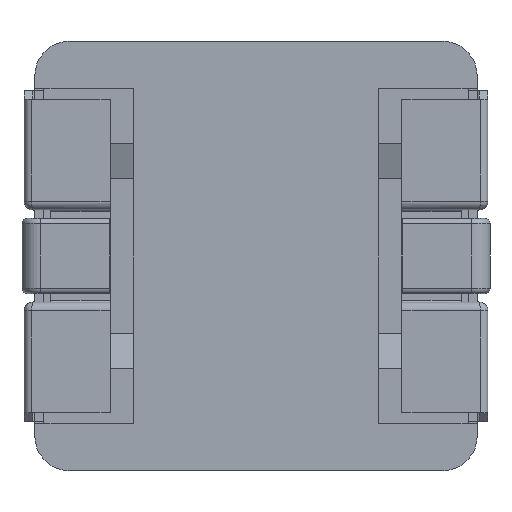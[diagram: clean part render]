
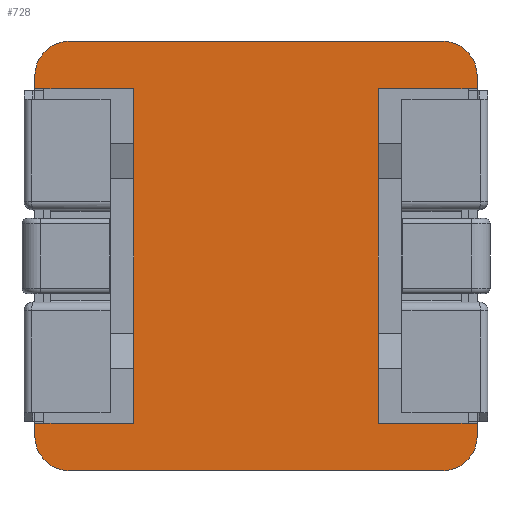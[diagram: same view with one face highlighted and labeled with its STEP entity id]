
A CAD part, front view. The second image highlights one B-rep face of the part: STEP entity #728.
In plain terms, the highlighted planar face has unit normal (0, -1, 0).
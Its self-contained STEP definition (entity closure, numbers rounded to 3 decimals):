
#18 = DIRECTION ( 'NONE',  ( 0., 0., -1. ) ) ;
#144 = DIRECTION ( 'NONE',  ( 0., 0., 1. ) ) ;
#285 = DIRECTION ( 'NONE',  ( 1., 0., 0. ) ) ;
#455 = LINE ( 'NONE', #2490, #7962 ) ;
#457 = VECTOR ( 'NONE', #6600, 1000. ) ;
#571 = VECTOR ( 'NONE', #1839, 1000. ) ;
#603 = DIRECTION ( 'NONE',  ( 0., -1., 0. ) ) ;
#635 = VECTOR ( 'NONE', #4025, 1000. ) ;
#699 = VERTEX_POINT ( 'NONE', #4810 ) ;
#728 = ADVANCED_FACE ( 'NONE', ( #6644 ), #3290, .T. ) ;
#773 = CIRCLE ( 'NONE', #9352, 0.8 ) ;
#802 = LINE ( 'NONE', #7799, #571 ) ;
#870 = AXIS2_PLACEMENT_3D ( 'NONE', #5113, #603, #5873 ) ;
#963 = VERTEX_POINT ( 'NONE', #2529 ) ;
#994 = ORIENTED_EDGE ( 'NONE', *, *, #4647, .F. ) ;
#1158 = VECTOR ( 'NONE', #9026, 1000. ) ;
#1487 = LINE ( 'NONE', #7546, #5060 ) ;
#1512 = EDGE_CURVE ( 'NONE', #7294, #2686, #6669, .T. ) ;
#1530 = EDGE_CURVE ( 'NONE', #9571, #4363, #2418, .T. ) ;
#1735 = LINE ( 'NONE', #6891, #9271 ) ;
#1774 = ORIENTED_EDGE ( 'NONE', *, *, #2189, .T. ) ;
#1812 = LINE ( 'NONE', #6059, #5602 ) ;
#1839 = DIRECTION ( 'NONE',  ( 0., 0., -1. ) ) ;
#1846 = CARTESIAN_POINT ( 'NONE',  ( 5.15, -3.545, 4.2 ) ) ;
#1848 = CARTESIAN_POINT ( 'NONE',  ( -5.15, -3.545, 3.9 ) ) ;
#1966 = CIRCLE ( 'NONE', #6836, 0.8 ) ;
#1989 = EDGE_CURVE ( 'NONE', #9447, #963, #4941, .T. ) ;
#2064 = ORIENTED_EDGE ( 'NONE', *, *, #3462, .T. ) ;
#2189 = EDGE_CURVE ( 'NONE', #2468, #3045, #773, .T. ) ;
#2240 = DIRECTION ( 'NONE',  ( 0., -1., 0. ) ) ;
#2241 = EDGE_CURVE ( 'NONE', #699, #4363, #1812, .T. ) ;
#2347 = CARTESIAN_POINT ( 'NONE',  ( -5.15, -3.545, -3.9 ) ) ;
#2394 = ORIENTED_EDGE ( 'NONE', *, *, #9655, .F. ) ;
#2418 = LINE ( 'NONE', #8859, #457 ) ;
#2468 = VERTEX_POINT ( 'NONE', #4869 ) ;
#2486 = CARTESIAN_POINT ( 'NONE',  ( 5.15, -3.545, -4.2 ) ) ;
#2490 = CARTESIAN_POINT ( 'NONE',  ( -5.15, -3.545, 5. ) ) ;
#2529 = CARTESIAN_POINT ( 'NONE',  ( -5.15, -3.545, 4.2 ) ) ;
#2597 = DIRECTION ( 'NONE',  ( 0., 0., 1. ) ) ;
#2622 = LINE ( 'NONE', #7004, #635 ) ;
#2686 = VERTEX_POINT ( 'NONE', #2844 ) ;
#2743 = VECTOR ( 'NONE', #2597, 1000. ) ;
#2844 = CARTESIAN_POINT ( 'NONE',  ( 4.35, -3.545, 5. ) ) ;
#3045 = VERTEX_POINT ( 'NONE', #6308 ) ;
#3072 = DIRECTION ( 'NONE',  ( 1., 0., 0. ) ) ;
#3177 = VERTEX_POINT ( 'NONE', #9348 ) ;
#3187 = EDGE_CURVE ( 'NONE', #7294, #699, #802, .T. ) ;
#3290 = PLANE ( 'NONE',  #3381 ) ;
#3381 = AXIS2_PLACEMENT_3D ( 'NONE', #9275, #5485, #7764 ) ;
#3462 = EDGE_CURVE ( 'NONE', #3177, #963, #6773, .T. ) ;
#3535 = EDGE_CURVE ( 'NONE', #7165, #7916, #1966, .T. ) ;
#3553 = CARTESIAN_POINT ( 'NONE',  ( 5.15, -3.545, 5. ) ) ;
#3583 = EDGE_CURVE ( 'NONE', #7165, #3045, #9782, .T. ) ;
#3662 = EDGE_CURVE ( 'NONE', #9571, #8614, #1487, .T. ) ;
#3753 = VECTOR ( 'NONE', #5297, 1000. ) ;
#3761 = DIRECTION ( 'NONE',  ( -1., 0., 0. ) ) ;
#4025 = DIRECTION ( 'NONE',  ( -1., 0., 0. ) ) ;
#4065 = ORIENTED_EDGE ( 'NONE', *, *, #4351, .T. ) ;
#4108 = CARTESIAN_POINT ( 'NONE',  ( -2.85, -3.545, -3.9 ) ) ;
#4148 = CARTESIAN_POINT ( 'NONE',  ( -5.15, -3.545, 5. ) ) ;
#4318 = DIRECTION ( 'NONE',  ( 0., 0., -1. ) ) ;
#4351 = EDGE_CURVE ( 'NONE', #9447, #8010, #7623, .T. ) ;
#4363 = VERTEX_POINT ( 'NONE', #8558 ) ;
#4450 = ORIENTED_EDGE ( 'NONE', *, *, #1530, .T. ) ;
#4478 = DIRECTION ( 'NONE',  ( 0., -1., 0. ) ) ;
#4512 = DIRECTION ( 'NONE',  ( 0., -1., 0. ) ) ;
#4602 = CARTESIAN_POINT ( 'NONE',  ( -2.85, -3.545, 3.9 ) ) ;
#4647 = EDGE_CURVE ( 'NONE', #8614, #7916, #5182, .T. ) ;
#4810 = CARTESIAN_POINT ( 'NONE',  ( 5.15, -3.545, 3.9 ) ) ;
#4833 = EDGE_CURVE ( 'NONE', #5932, #8010, #1735, .T. ) ;
#4869 = CARTESIAN_POINT ( 'NONE',  ( -5.15, -3.545, -4.2 ) ) ;
#4941 = LINE ( 'NONE', #6751, #1158 ) ;
#5015 = LINE ( 'NONE', #4148, #2743 ) ;
#5060 = VECTOR ( 'NONE', #3072, 1000. ) ;
#5113 = CARTESIAN_POINT ( 'NONE',  ( 4.35, -3.545, 4.2 ) ) ;
#5179 = ORIENTED_EDGE ( 'NONE', *, *, #3662, .F. ) ;
#5182 = LINE ( 'NONE', #3553, #6925 ) ;
#5297 = DIRECTION ( 'NONE',  ( -1., 0., 0. ) ) ;
#5429 = ORIENTED_EDGE ( 'NONE', *, *, #3535, .T. ) ;
#5485 = DIRECTION ( 'NONE',  ( 0., -1., 0. ) ) ;
#5518 = CARTESIAN_POINT ( 'NONE',  ( 2.85, -3.545, -3.9 ) ) ;
#5566 = ORIENTED_EDGE ( 'NONE', *, *, #4833, .F. ) ;
#5602 = VECTOR ( 'NONE', #3761, 1000. ) ;
#5796 = EDGE_LOOP ( 'NONE', ( #8493, #2064, #9237, #4065, #5566, #9061, #2394, #1774, #7301, #5429, #994, #5179, #4450, #6250, #6313, #7708 ) ) ;
#5828 = EDGE_CURVE ( 'NONE', #3177, #2686, #455, .T. ) ;
#5873 = DIRECTION ( 'NONE',  ( 0., 0., -1. ) ) ;
#5932 = VERTEX_POINT ( 'NONE', #4108 ) ;
#6059 = CARTESIAN_POINT ( 'NONE',  ( 5.15, -3.545, 3.9 ) ) ;
#6250 = ORIENTED_EDGE ( 'NONE', *, *, #2241, .F. ) ;
#6308 = CARTESIAN_POINT ( 'NONE',  ( -4.35, -3.545, -5. ) ) ;
#6313 = ORIENTED_EDGE ( 'NONE', *, *, #3187, .F. ) ;
#6600 = DIRECTION ( 'NONE',  ( 0., 0., 1. ) ) ;
#6644 = FACE_OUTER_BOUND ( 'NONE', #5796, .T. ) ;
#6669 = CIRCLE ( 'NONE', #870, 0.8 ) ;
#6751 = CARTESIAN_POINT ( 'NONE',  ( -5.15, -3.545, 5. ) ) ;
#6770 = CARTESIAN_POINT ( 'NONE',  ( 4.35, -3.545, -4.2 ) ) ;
#6773 = CIRCLE ( 'NONE', #6939, 0.8 ) ;
#6836 = AXIS2_PLACEMENT_3D ( 'NONE', #6770, #2240, #7515 ) ;
#6891 = CARTESIAN_POINT ( 'NONE',  ( -2.85, -3.545, -3.9 ) ) ;
#6925 = VECTOR ( 'NONE', #4318, 1000. ) ;
#6939 = AXIS2_PLACEMENT_3D ( 'NONE', #8974, #4478, #9769 ) ;
#7004 = CARTESIAN_POINT ( 'NONE',  ( -4.95, -3.545, -3.9 ) ) ;
#7110 = VERTEX_POINT ( 'NONE', #2347 ) ;
#7165 = VERTEX_POINT ( 'NONE', #8487 ) ;
#7187 = EDGE_CURVE ( 'NONE', #5932, #7110, #2622, .T. ) ;
#7294 = VERTEX_POINT ( 'NONE', #1846 ) ;
#7301 = ORIENTED_EDGE ( 'NONE', *, *, #3583, .F. ) ;
#7376 = VECTOR ( 'NONE', #7794, 1000. ) ;
#7515 = DIRECTION ( 'NONE',  ( 0., 0., -1. ) ) ;
#7546 = CARTESIAN_POINT ( 'NONE',  ( 4.95, -3.545, -3.9 ) ) ;
#7623 = LINE ( 'NONE', #1848, #7376 ) ;
#7708 = ORIENTED_EDGE ( 'NONE', *, *, #1512, .T. ) ;
#7764 = DIRECTION ( 'NONE',  ( 0., 0., -1. ) ) ;
#7794 = DIRECTION ( 'NONE',  ( 1., 0., 0. ) ) ;
#7799 = CARTESIAN_POINT ( 'NONE',  ( 5.15, -3.545, 5. ) ) ;
#7916 = VERTEX_POINT ( 'NONE', #2486 ) ;
#7962 = VECTOR ( 'NONE', #285, 1000. ) ;
#8010 = VERTEX_POINT ( 'NONE', #4602 ) ;
#8162 = CARTESIAN_POINT ( 'NONE',  ( 5.15, -3.545, -3.9 ) ) ;
#8254 = CARTESIAN_POINT ( 'NONE',  ( -5.15, -3.545, 3.9 ) ) ;
#8487 = CARTESIAN_POINT ( 'NONE',  ( 4.35, -3.545, -5. ) ) ;
#8493 = ORIENTED_EDGE ( 'NONE', *, *, #5828, .F. ) ;
#8558 = CARTESIAN_POINT ( 'NONE',  ( 2.85, -3.545, 3.9 ) ) ;
#8614 = VERTEX_POINT ( 'NONE', #8162 ) ;
#8859 = CARTESIAN_POINT ( 'NONE',  ( 2.85, -3.545, -3.9 ) ) ;
#8974 = CARTESIAN_POINT ( 'NONE',  ( -4.35, -3.545, 4.2 ) ) ;
#9015 = CARTESIAN_POINT ( 'NONE',  ( -4.35, -3.545, -4.2 ) ) ;
#9026 = DIRECTION ( 'NONE',  ( 0., 0., 1. ) ) ;
#9042 = CARTESIAN_POINT ( 'NONE',  ( -5.15, -3.545, -5. ) ) ;
#9061 = ORIENTED_EDGE ( 'NONE', *, *, #7187, .T. ) ;
#9237 = ORIENTED_EDGE ( 'NONE', *, *, #1989, .F. ) ;
#9271 = VECTOR ( 'NONE', #144, 1000. ) ;
#9275 = CARTESIAN_POINT ( 'NONE',  ( 0., -3.545, 0. ) ) ;
#9348 = CARTESIAN_POINT ( 'NONE',  ( -4.35, -3.545, 5. ) ) ;
#9352 = AXIS2_PLACEMENT_3D ( 'NONE', #9015, #4512, #18 ) ;
#9447 = VERTEX_POINT ( 'NONE', #8254 ) ;
#9571 = VERTEX_POINT ( 'NONE', #5518 ) ;
#9655 = EDGE_CURVE ( 'NONE', #2468, #7110, #5015, .T. ) ;
#9769 = DIRECTION ( 'NONE',  ( 0., 0., -1. ) ) ;
#9782 = LINE ( 'NONE', #9042, #3753 ) ;
